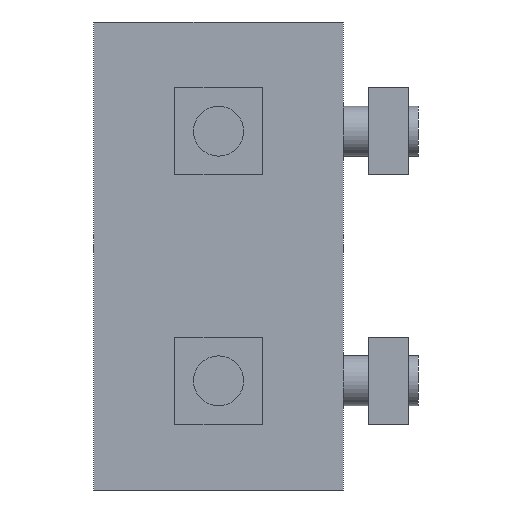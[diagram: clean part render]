
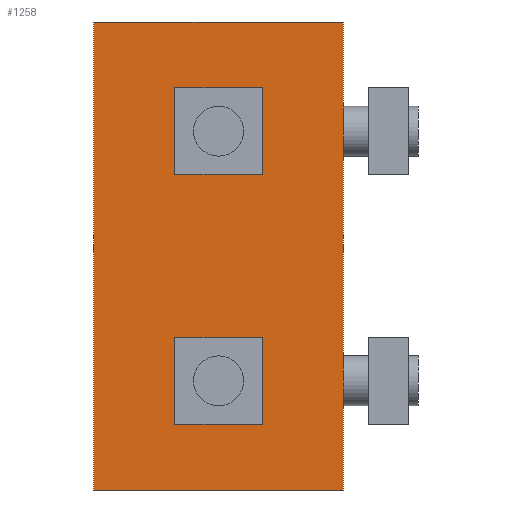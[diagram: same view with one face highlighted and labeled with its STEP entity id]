
A CAD part, left-side view. The second image highlights one B-rep face of the part: STEP entity #1258.
In plain terms, the highlighted planar face has unit normal (-1, 0, 0).
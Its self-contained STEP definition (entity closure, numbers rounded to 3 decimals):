
#123=CARTESIAN_POINT('',(0.0,24.5,20.0));
#124=VERTEX_POINT('',#123);
#125=CARTESIAN_POINT('',(0.0,20.0,20.0));
#126=DIRECTION('',(1.0,0.0,0.0));
#127=DIRECTION('',(0.0,1.0,0.0));
#128=AXIS2_PLACEMENT_3D('',#125,#126,#127);
#129=CIRCLE('',#128,4.5);
#130=EDGE_CURVE('',#124,#124,#129,.T.);
#490=CARTESIAN_POINT('',(0.0,24.5,-20.0));
#491=VERTEX_POINT('',#490);
#492=CARTESIAN_POINT('',(0.0,20.0,-20.0));
#493=DIRECTION('',(1.0,0.0,0.0));
#494=DIRECTION('',(0.0,1.0,0.0));
#495=AXIS2_PLACEMENT_3D('',#492,#493,#494);
#496=CIRCLE('',#495,4.5);
#497=EDGE_CURVE('',#491,#491,#496,.T.);
#1180=CARTESIAN_POINT('',(0.0,0.0,-37.5));
#1181=VERTEX_POINT('',#1180);
#1188=CARTESIAN_POINT('',(0.0,40.0,-37.5));
#1189=VERTEX_POINT('',#1188);
#1190=CARTESIAN_POINT('',(0.0,40.0,-37.5));
#1191=DIRECTION('',(0.0,-1.0,0.0));
#1192=VECTOR('',#1191,40.0);
#1193=LINE('',#1190,#1192);
#1194=EDGE_CURVE('',#1189,#1181,#1193,.T.);
#1222=CARTESIAN_POINT('',(0.0,0.0,0.0));
#1223=DIRECTION('',(-1.0,0.0,0.0));
#1224=DIRECTION('',(0.0,0.0,1.0));
#1225=AXIS2_PLACEMENT_3D('',#1222,#1223,#1224);
#1226=PLANE('',#1225);
#1227=CARTESIAN_POINT('',(0.0,0.0,37.5));
#1228=VERTEX_POINT('',#1227);
#1229=CARTESIAN_POINT('',(0.0,40.0,37.5));
#1230=VERTEX_POINT('',#1229);
#1231=CARTESIAN_POINT('',(0.0,0.0,37.5));
#1232=DIRECTION('',(0.0,1.0,0.0));
#1233=VECTOR('',#1232,40.0);
#1234=LINE('',#1231,#1233);
#1235=EDGE_CURVE('',#1228,#1230,#1234,.T.);
#1236=ORIENTED_EDGE('',*,*,#1235,.T.);
#1237=CARTESIAN_POINT('',(0.0,40.0,37.5));
#1238=DIRECTION('',(0.0,0.0,-1.0));
#1239=VECTOR('',#1238,75.0);
#1240=LINE('',#1237,#1239);
#1241=EDGE_CURVE('',#1230,#1189,#1240,.T.);
#1242=ORIENTED_EDGE('',*,*,#1241,.T.);
#1243=ORIENTED_EDGE('',*,*,#1194,.T.);
#1244=CARTESIAN_POINT('',(0.0,0.0,37.5));
#1245=DIRECTION('',(0.0,0.0,-1.0));
#1246=VECTOR('',#1245,75.0);
#1247=LINE('',#1244,#1246);
#1248=EDGE_CURVE('',#1228,#1181,#1247,.T.);
#1249=ORIENTED_EDGE('',*,*,#1248,.F.);
#1250=EDGE_LOOP('',(#1236,#1242,#1243,#1249));
#1251=FACE_OUTER_BOUND('',#1250,.T.);
#1252=ORIENTED_EDGE('',*,*,#497,.T.);
#1253=EDGE_LOOP('',(#1252));
#1254=FACE_BOUND('',#1253,.T.);
#1255=ORIENTED_EDGE('',*,*,#130,.T.);
#1256=EDGE_LOOP('',(#1255));
#1257=FACE_BOUND('',#1256,.T.);
#1258=ADVANCED_FACE('',(#1251,#1254,#1257),#1226,.T.);
